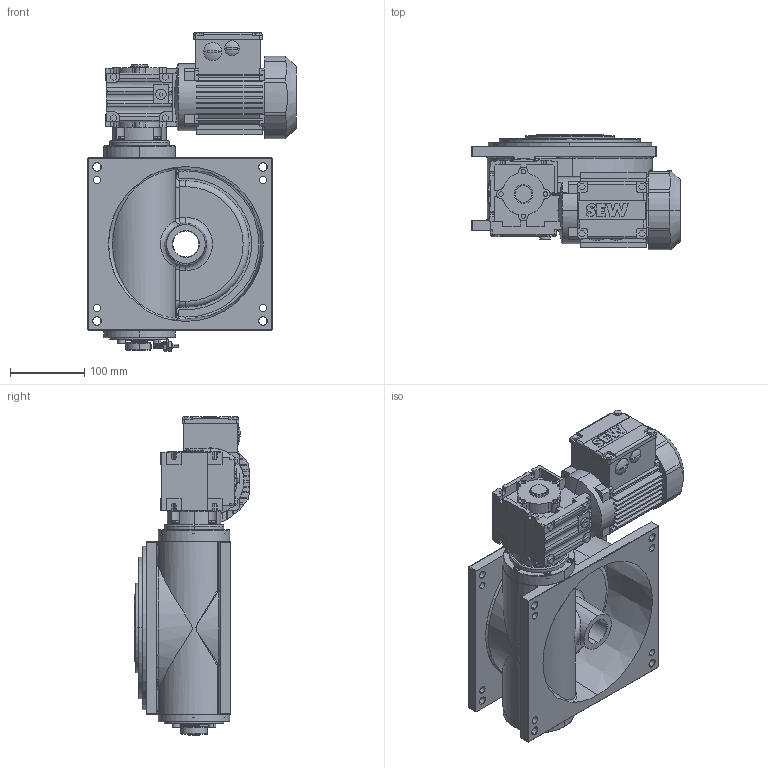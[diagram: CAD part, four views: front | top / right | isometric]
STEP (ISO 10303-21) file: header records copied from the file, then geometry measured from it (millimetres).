
FILE_DESCRIPTION (( 'STEP AP214' ), '1' );
FILE_NAME ('M190_SEW_WAF10DR2S56M4_D1.STEP', '2021-01-25T15:20:08', ( '' ), ( '' ), 'SwSTEP 2.0', 'SolidWorks 2020', '' );
FILE_SCHEMA (( 'AUTOMOTIVE_DESIGN' ));
Length unit declared in the file: millimetre
Products named in the file (1): M190_SEW_WAF10DR2S56M4_D1
Bounding box: 280.5 x 155.54 x 428.25 mm (x, y, z)
Surface area: 546446.1 mm2 (no closed solid volume)
Topology: 0 solids, 56 shells, 1464 faces, 4480 edges, 2943 vertices
Faces by surface type: plane 720, cylinder 425, cone 158, bspline 80, torus 65, sphere 16
Entity records: 75033 total; most frequent: CARTESIAN_POINT 19632, DIRECTION 8145, ORIENTED_EDGE 7785, EDGE_CURVE 4442, VERTEX_POINT 2943, AXIS2_PLACEMENT_3D 2791, LINE 2563, VECTOR 2563
